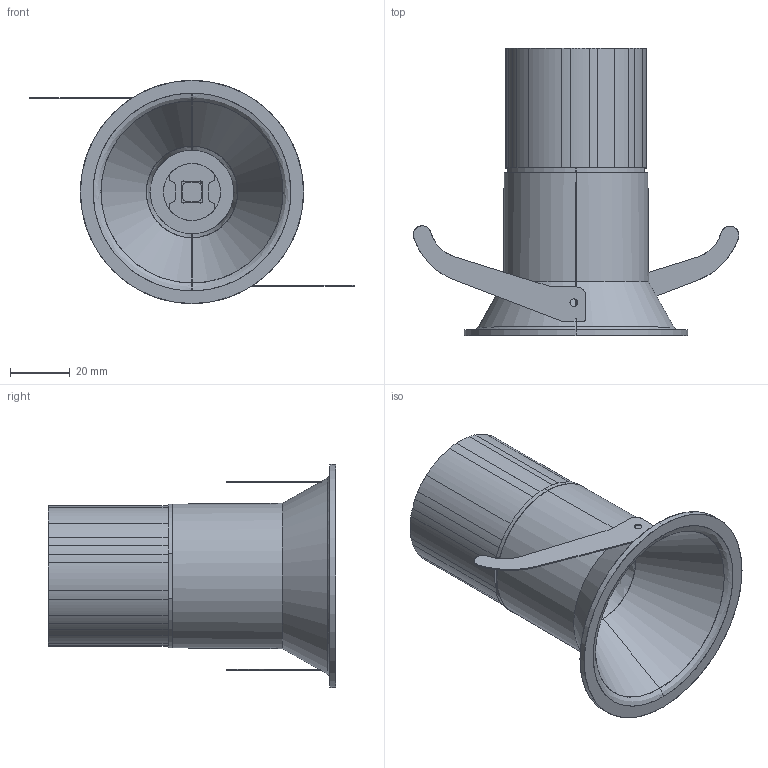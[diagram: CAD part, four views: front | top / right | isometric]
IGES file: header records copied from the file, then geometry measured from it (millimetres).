
Start section: SolidWorks IGES file using analytic representation for surfaces
Global section: file name: C:\Users\JoãoSantos\Desktop\02_3D.2D\01_2020\01_Spot On\05_Beam_x\01_Beam75\01_Beam75\BEAM_75.IGS; native system: SolidWorks 2020; preprocessor: SolidWorks 2020; author: JoãoSantos; date: 201019.155153; units: millimetre
Bounding box: 108.74 x 96 x 74.5 mm (x, y, z)
Surface area: 39419.1 mm2 (no closed solid volume)
Topology: 0 solids, 0 shells, 216 faces, 2703 edges, 2701 vertices
Faces by surface type: revolution 139, bspline 77
